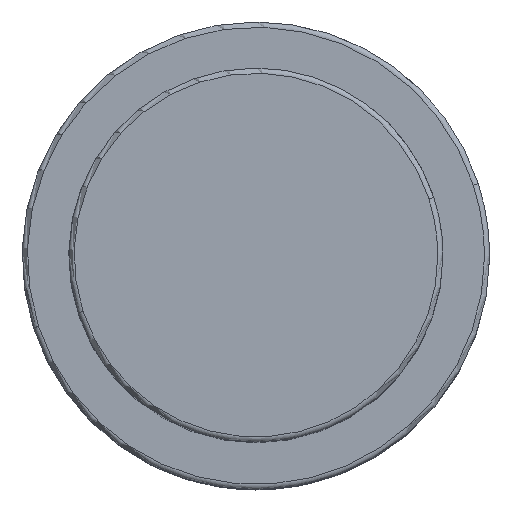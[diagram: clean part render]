
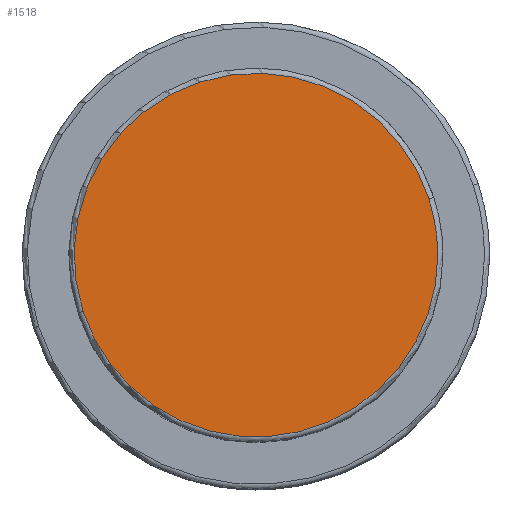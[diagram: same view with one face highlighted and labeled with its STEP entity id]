
A CAD part, top view. The second image highlights one B-rep face of the part: STEP entity #1518.
In plain terms, the highlighted planar face has unit normal (0, 0, 1).
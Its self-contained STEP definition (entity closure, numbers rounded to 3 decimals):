
#1451=CARTESIAN_POINT('',(16.643,5.408,63.0));
#1452=VERTEX_POINT('',#1451);
#1470=CARTESIAN_POINT('',(-16.643,-5.408,63.0));
#1471=VERTEX_POINT('',#1470);
#1479=CARTESIAN_POINT('',(0.0,0.0,63.0));
#1480=DIRECTION('',(0.0,0.0,1.0));
#1481=DIRECTION('',(1.0,0.0,0.0));
#1482=AXIS2_PLACEMENT_3D('',#1479,#1480,#1481);
#1483=CIRCLE('',#1482,17.5);
#1484=EDGE_CURVE('no 1648',#1452,#1471,#1483,.T.);
#1494=CARTESIAN_POINT('',(17.5,0.0,63.0));
#1495=VERTEX_POINT('',#1494);
#1496=CARTESIAN_POINT('',(0.0,0.0,63.0));
#1497=DIRECTION('',(0.0,0.0,1.0));
#1498=DIRECTION('',(1.0,0.0,0.0));
#1499=AXIS2_PLACEMENT_3D('',#1496,#1497,#1498);
#1500=CIRCLE('',#1499,17.5);
#1501=EDGE_CURVE('no 1657',#1495,#1452,#1500,.T.);
#1502=ORIENTED_EDGE('',*,*,#1501,.T.);
#1503=ORIENTED_EDGE('',*,*,#1484,.T.);
#1504=CARTESIAN_POINT('',(0.0,0.0,63.0));
#1505=DIRECTION('',(0.0,0.0,1.0));
#1506=DIRECTION('',(1.0,0.0,0.0));
#1507=AXIS2_PLACEMENT_3D('',#1504,#1505,#1506);
#1508=CIRCLE('',#1507,17.5);
#1509=EDGE_CURVE('no 1663',#1471,#1495,#1508,.T.);
#1510=ORIENTED_EDGE('',*,*,#1509,.T.);
#1511=EDGE_LOOP('',(#1502,#1503,#1510));
#1512=FACE_OUTER_BOUND('',#1511,.T.);
#1513=CARTESIAN_POINT('',(0.0,0.0,63.0));
#1514=DIRECTION('',(0.0,0.0,1.0));
#1515=DIRECTION('',(1.0,0.0,0.0));
#1516=AXIS2_PLACEMENT_3D('',#1513,#1514,#1515);
#1517=PLANE('',#1516);
#1518=ADVANCED_FACE('no 1650',(#1512),#1517,.T.);
